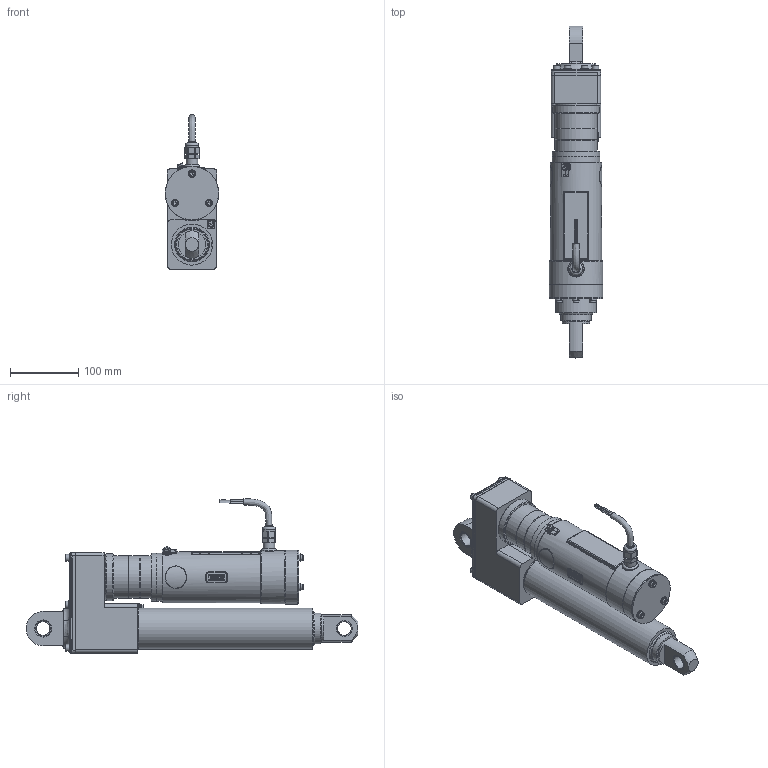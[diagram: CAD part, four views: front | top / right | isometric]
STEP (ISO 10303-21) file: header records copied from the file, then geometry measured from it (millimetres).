
FILE_DESCRIPTION(/* description */ ('Unknown'),/* implementation_level */ '2;1');
FILE_NAME(/* name */ 'T6N4-0200-168-460-4',/* time_stamp */ '2025-07-21T10:00:21+02:00',/* author */ ('Unknown'),/* organization */ ('Unknown'),/* preprocessor_version */ 'ST-DEVELOPER v19.4',/* originating_system */ 'Solid Edge',/* authorisation */ 'Unknown');
FILE_SCHEMA (('AUTOMOTIVE_DESIGN {1 0 10303 214 3 1 1}'));
Products named in the file (10): 168-460-4; 12.01-04 6-20kN; 05.10-02_kpl; 01.01-C4-140_kpl_Gabelauge; Motor-C2-4; 12.02-04  6-20kN; 04.41-C4 PLG62; 01.15-04-0200 6-20kN; 02.14-04-0200 6-20kN; PLG-PM 62_2 Stufig
Assembly tree (9 placements, depth 2):
  168-460-4
    12.01-04 6-20kN
    05.10-02_kpl
    01.01-C4-140_kpl_Gabelauge
    Motor-C2-4
    12.02-04  6-20kN
    04.41-C4 PLG62
    01.15-04-0200 6-20kN
    02.14-04-0200 6-20kN
    PLG-PM 62_2 Stufig
Bounding box: 78.5 x 485 x 225.53 mm (x, y, z)
Volume: 2822290.4 mm3; surface area: 333441.8 mm2
Topology: 11 solids, 16 shells, 3318 faces, 11264 edges, 7190 vertices
Faces by surface type: plane 2697, cylinder 372, bspline 110, cone 71, torus 64, sphere 4
Full cylindrical faces by diameter (mm): 1 x11, 2 x17, 4.02 x1, 4.134 x2, 4.773 x6, 4.917 x12, 5 x6, 5.1 x1, 5.3 x2, 5.4 x1, 6 x14, 6.15 x2, 6.5 x4, 6.6 x6, 8.5 x3, 8.9 x1, 9 x4, 9.2 x1, 10 x11, 11 x7, 13.5 x1, 15.2 x1, 17 x1, 19 x1, 20 x2, 23 x4, 38.9 x1, 40 x1, 45 x2, 46.5 x1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
Entity records: 149285 total; most frequent: CARTESIAN_POINT 26235, ORIENTED_EDGE 21870, DIRECTION 20656, EDGE_CURVE 10935, VERTEX_POINT 7114, AXIS2_PLACEMENT_3D 7007, LINE 6642, VECTOR 6642
